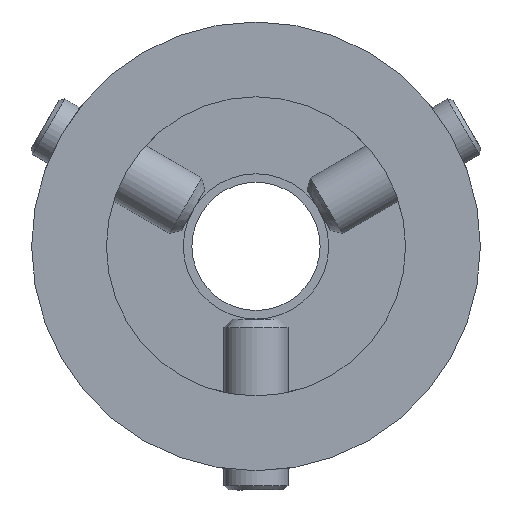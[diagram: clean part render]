
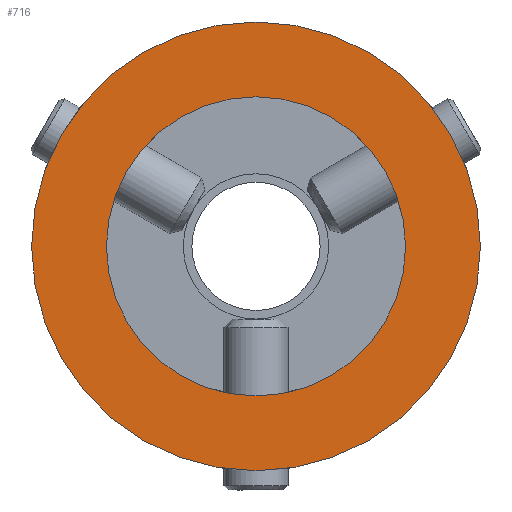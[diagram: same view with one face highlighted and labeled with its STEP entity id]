
A CAD part, front view. The second image highlights one B-rep face of the part: STEP entity #716.
In plain terms, the highlighted planar face has unit normal (0, -1, 0).
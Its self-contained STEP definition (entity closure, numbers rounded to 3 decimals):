
#76 = CARTESIAN_POINT ( 'NONE',  ( 0., 0., 0. ) ) ;
#110 = ORIENTED_EDGE ( 'NONE', *, *, #1440, .F. ) ;
#114 = CIRCLE ( 'NONE', #285, 10.5 ) ;
#151 = CARTESIAN_POINT ( 'NONE',  ( 0., 0., -10.5 ) ) ;
#211 = PLANE ( 'NONE',  #2181 ) ;
#213 = ORIENTED_EDGE ( 'NONE', *, *, #563, .T. ) ;
#268 = CARTESIAN_POINT ( 'NONE',  ( 3., 0., 0. ) ) ;
#285 = AXIS2_PLACEMENT_3D ( 'NONE', #417, #1605, #587 ) ;
#417 = CARTESIAN_POINT ( 'NONE',  ( 0., 0., 0. ) ) ;
#563 = EDGE_CURVE ( 'NONE', #1358, #2163, #2012, .T. ) ;
#587 = DIRECTION ( 'NONE',  ( 0., 0., -1. ) ) ;
#716 = ADVANCED_FACE ( 'NONE', ( #1453, #1801 ), #211, .T. ) ;
#748 = DIRECTION ( 'NONE',  ( 0., -1., 0. ) ) ;
#781 = CARTESIAN_POINT ( 'NONE',  ( 0., 0., 7. ) ) ;
#784 = EDGE_LOOP ( 'NONE', ( #110, #1497 ) ) ;
#825 = EDGE_CURVE ( 'NONE', #1484, #1658, #846, .T. ) ;
#846 = CIRCLE ( 'NONE', #1502, 7. ) ;
#871 = AXIS2_PLACEMENT_3D ( 'NONE', #76, #1106, #938 ) ;
#938 = DIRECTION ( 'NONE',  ( 0., 0., -1. ) ) ;
#946 = DIRECTION ( 'NONE',  ( 0., -1., 0. ) ) ;
#1008 = DIRECTION ( 'NONE',  ( 0., -1., 0. ) ) ;
#1106 = DIRECTION ( 'NONE',  ( 0., -1., 0. ) ) ;
#1229 = AXIS2_PLACEMENT_3D ( 'NONE', #1957, #946, #1329 ) ;
#1259 = CARTESIAN_POINT ( 'NONE',  ( 0., 0., -7. ) ) ;
#1329 = DIRECTION ( 'NONE',  ( 0., 0., -1. ) ) ;
#1358 = VERTEX_POINT ( 'NONE', #151 ) ;
#1440 = EDGE_CURVE ( 'NONE', #1658, #1484, #1796, .T. ) ;
#1453 = FACE_BOUND ( 'NONE', #784, .T. ) ;
#1484 = VERTEX_POINT ( 'NONE', #781 ) ;
#1497 = ORIENTED_EDGE ( 'NONE', *, *, #825, .F. ) ;
#1502 = AXIS2_PLACEMENT_3D ( 'NONE', #2191, #1008, #1866 ) ;
#1605 = DIRECTION ( 'NONE',  ( 0., -1., 0. ) ) ;
#1658 = VERTEX_POINT ( 'NONE', #1259 ) ;
#1700 = CARTESIAN_POINT ( 'NONE',  ( 0., 0., 10.5 ) ) ;
#1733 = EDGE_CURVE ( 'NONE', #2163, #1358, #114, .T. ) ;
#1748 = EDGE_LOOP ( 'NONE', ( #213, #2036 ) ) ;
#1769 = DIRECTION ( 'NONE',  ( 0., 0., -1. ) ) ;
#1796 = CIRCLE ( 'NONE', #871, 7. ) ;
#1801 = FACE_OUTER_BOUND ( 'NONE', #1748, .T. ) ;
#1866 = DIRECTION ( 'NONE',  ( 0., 0., -1. ) ) ;
#1957 = CARTESIAN_POINT ( 'NONE',  ( 0., 0., 0. ) ) ;
#2012 = CIRCLE ( 'NONE', #1229, 10.5 ) ;
#2036 = ORIENTED_EDGE ( 'NONE', *, *, #1733, .T. ) ;
#2163 = VERTEX_POINT ( 'NONE', #1700 ) ;
#2181 = AXIS2_PLACEMENT_3D ( 'NONE', #268, #748, #1769 ) ;
#2191 = CARTESIAN_POINT ( 'NONE',  ( 0., 0., 0. ) ) ;
